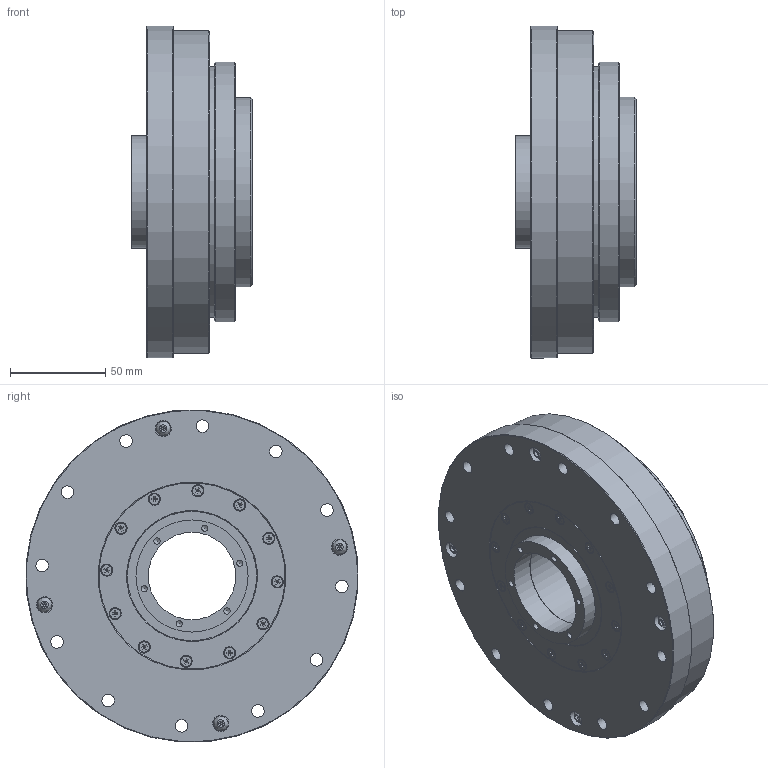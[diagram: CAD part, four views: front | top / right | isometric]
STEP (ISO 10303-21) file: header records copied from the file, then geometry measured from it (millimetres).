
FILE_DESCRIPTION (( 'STEP AP203' ), '1' );
FILE_NAME ('LHD-40-XXX-C(CL)-III.STEP', '2025-01-08T10:34:36', ( '' ), ( '' ), 'SwSTEP 2.0', 'SolidWorks 2023', '' );
FILE_SCHEMA (( 'CONFIG_CONTROL_DESIGN' ));
Length unit declared in the file: metre
Products named in the file (1): LHD-40-XXX-C(CL)-III
Bounding box: 63.5 x 174.58 x 174.58 mm (x, y, z)
Volume: 763140.6 mm3; surface area: 406457.6 mm2
Topology: 73 solids, 73 shells, 1678 faces, 4331 edges, 2700 vertices
Faces by surface type: plane 721, cylinder 365, bspline 346, cone 246
Full cylindrical faces by diameter (mm): 2.5 x12, 3 x12, 3.3 x14, 3.4 x12, 4 x8, 4.2 x12, 4.5 x12, 5 x24, 5.5 x24, 6.5 x16, 6.6 x48, 8.5 x16, 9 x6, 9.5 x6, 46 x2, 46.5 x1, 56.5 x1, 57 x1, 59 x4, 60 x5, 61.5 x2, 64 x1, 65.5 x2, 66 x5, 67.8 x1, 68 x4, 68.333 x2, 70.5 x1, 72 x4, 75 x1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
Entity records: 61266 total; most frequent: CARTESIAN_POINT 25947, ORIENTED_EDGE 6928, DIRECTION 6742, EDGE_CURVE 3464, AXIS2_PLACEMENT_3D 2869, EDGE_LOOP 2626, VERTEX_POINT 2476, FACE_OUTER_BOUND 2125
